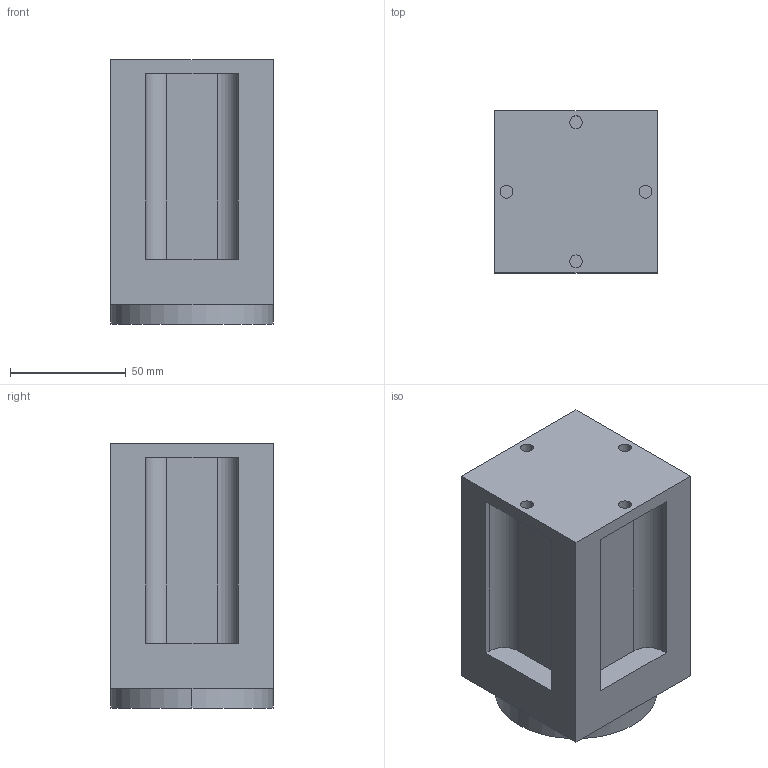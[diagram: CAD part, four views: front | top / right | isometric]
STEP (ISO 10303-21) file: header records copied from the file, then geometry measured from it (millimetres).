
FILE_DESCRIPTION (( 'STEP AP214' ), '1' );
FILE_NAME ('DL-80114-A-石柱.STEP', '2020-07-03T07:18:06', ( 'stingman@livemail.tw' ), ( '' ), 'SwSTEP 2.0', 'SolidWorks 2018', '' );
FILE_SCHEMA (( 'AUTOMOTIVE_DESIGN' ));
Length unit declared in the file: millimetre
Products named in the file (1): DL-80114-A-石柱
Bounding box: 70 x 70 x 114 mm (x, y, z)
Volume: 419295.3 mm3; surface area: 49482 mm2
Topology: 1 solids, 1 shells, 56 faces, 140 edges, 88 vertices
Faces by surface type: plane 30, cylinder 22, cone 4
Entity records: 1736 total; most frequent: DIRECTION 296, CARTESIAN_POINT 281, ORIENTED_EDGE 272, EDGE_CURVE 136, AXIS2_PLACEMENT_3D 103, LINE 90, VECTOR 90, VERTEX_POINT 88
